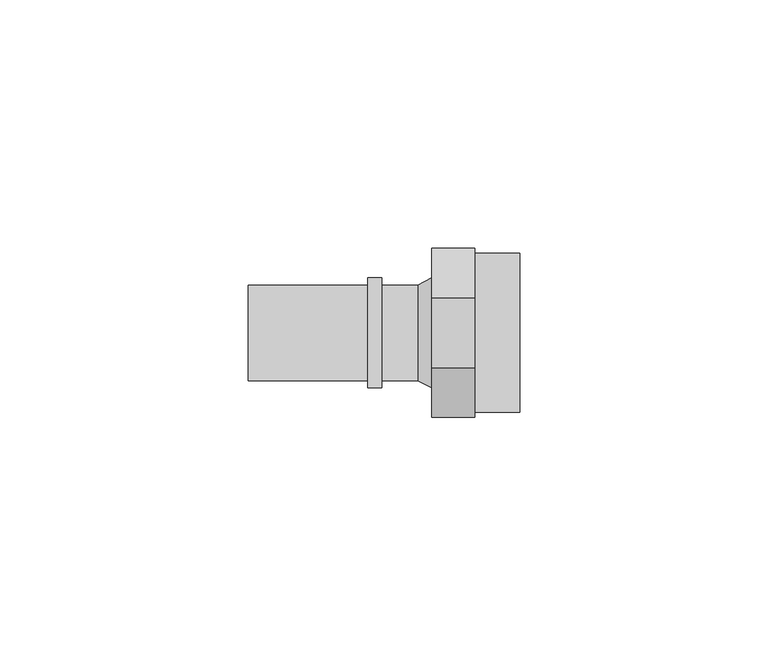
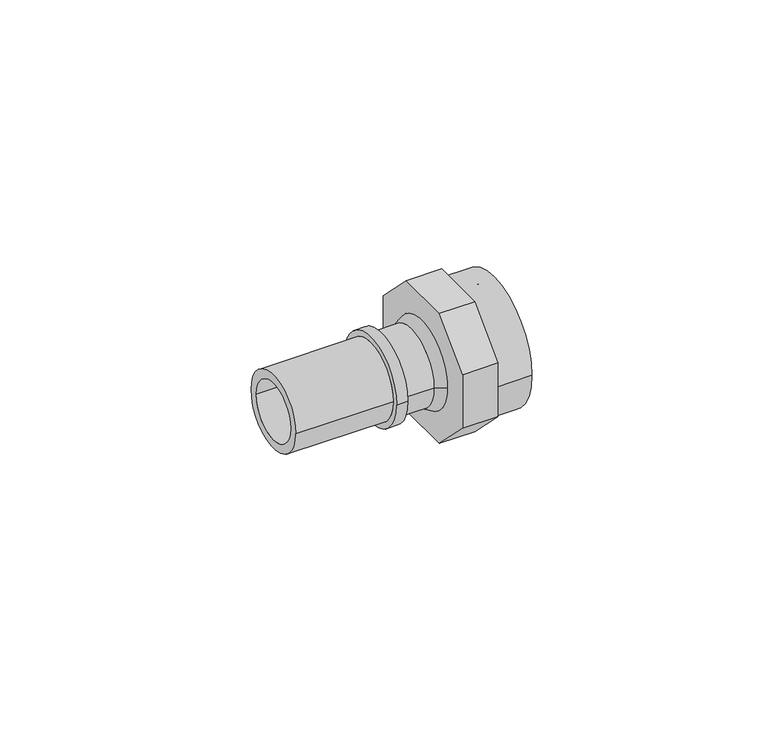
"""IFC4 building model written with IfcOpenShell, lengths in millimetres: pipe fitting geometry, FASTLOC_Adapter_LX, with internal thread : FSL A internal PL."""

import ifcopenshell
import ifcopenshell.guid

model = None  # the IFC model being written
_history = None  # IfcOwnerHistory: only IFC2X3 demands one
_inside = {}  # id of a spatial element -> (the spatial element, [elements in it])
_under = {}  # id of a project, library or spatial element -> (it, [spatial elements below it])
_declared = {}  # id of a project -> (the project, [libraries it declares])
_typed = {}  # id of a type object -> (the type object, [elements of that type])
_made_of = {}  # id of a material, layer set ... -> (it, [elements and type objects made of it])


def new_model(schema):
    """Start an empty IFC model of exactly this schema.

    Asked for "IFC4X3", IfcOpenShell would pick the latest addendum, in which some entities
    have other attributes; the version numbers below select the first issue.
    IFC2X3 requires an IfcOwnerHistory on every rooted entity: one is made here for all.
    """
    global model, _history
    if schema == "IFC4X3":
        model = ifcopenshell.file(schema_version=(4, 3, 0, 0))
    else:
        model = ifcopenshell.file(schema=schema)
    _inside.clear()
    _under.clear()
    _declared.clear()
    _typed.clear()
    _made_of.clear()
    _history = None
    if model.schema == "IFC2X3":
        org = make("IfcOrganization", Name="unknown")
        user = make(
            "IfcPersonAndOrganization",
            ThePerson=make("IfcPerson", FamilyName="unknown"),
            TheOrganization=org,
        )
        app = make(
            "IfcApplication",
            ApplicationDeveloper=org,
            Version="unknown",
            ApplicationFullName="unknown",
            ApplicationIdentifier="unknown",
        )
        _history = make(
            "IfcOwnerHistory",
            OwningUser=user,
            OwningApplication=app,
            ChangeAction="ADDED",
            CreationDate=0,
        )
    return model


def make(cls, **values):
    """One entity of the class cls with the attributes given. An attribute that is None is left unset."""
    return model.create_entity(
        cls, **{name: value for name, value in values.items() if value is not None}
    )


def rooted(cls, **values):
    """An entity with a GlobalId (a new one), such as an element, a storey or a relation."""
    return make(cls, GlobalId=ifcopenshell.guid.new(), OwnerHistory=_history, **values)


def si_unit(unit_type, name, prefix=None):
    """IfcSIUnit, for example si_unit("LENGTHUNIT", "METRE", prefix="MILLI")."""
    return make("IfcSIUnit", UnitType=unit_type, Prefix=prefix, Name=name)


def assignment(units):
    """IfcUnitAssignment: the units of a project."""
    return None if units is None else make("IfcUnitAssignment", Units=units)


def point(xyz):
    """IfcCartesianPoint."""
    return None if xyz is None else make("IfcCartesianPoint", Coordinates=xyz)


def direction(xyz):
    """IfcDirection."""
    return None if xyz is None else make("IfcDirection", DirectionRatios=xyz)


def frame(location, z_axis=None, x_axis=None):
    """IfcAxis2Placement3D, a coordinate frame: its origin and axes. An axis left out is left unset."""
    return make(
        "IfcAxis2Placement3D",
        Location=point(location),
        Axis=direction(z_axis),
        RefDirection=direction(x_axis),
    )


def frame_2d(location, x_axis=None):
    """IfcAxis2Placement2D, a coordinate frame in the plane: its origin and x axis."""
    return make(
        "IfcAxis2Placement2D", Location=point(location), RefDirection=direction(x_axis)
    )


def origin():
    """The frame at (0, 0, 0) with its axes left unset."""
    return frame((0.0, 0.0, 0.0))


def origin_2d():
    """The frame at (0, 0) in the plane with its x axis left unset."""
    return frame_2d((0.0, 0.0))


def place(relative_to, where):
    """IfcLocalPlacement: puts the frame where relative to a parent placement (None: the world)."""
    return make(
        "IfcLocalPlacement", PlacementRelTo=relative_to, RelativePlacement=where
    )


def context(
    kind, dimensions, precision=None, world=None, true_north=None, identifier=None
):
    """IfcGeometricRepresentationContext, for example the 3D "Model" context."""
    return make(
        "IfcGeometricRepresentationContext",
        ContextIdentifier=identifier,
        ContextType=kind,
        CoordinateSpaceDimension=dimensions,
        Precision=precision,
        WorldCoordinateSystem=world,
        TrueNorth=true_north,
    )


def project(units=None, contexts=None):
    """IfcProject with its units and contexts."""
    return rooted(
        "IfcProject",
        Name="project",
        RepresentationContexts=contexts,
        UnitsInContext=assignment(units),
    )


def spatial(cls, under=None, at=None, **own):
    """A site, building, storey or space (cls), placed at a placement, below another one or the project."""
    s = rooted(cls, ObjectPlacement=at, **own)
    if under is not None:
        _under.setdefault(under.id(), (under, []))[1].append(s)
    return s


def polyline(points):
    """IfcPolyline through the points."""
    return make("IfcPolyline", Points=[point(p) for p in points])


def circle_curve(where, radius):
    """IfcCircle in the frame where."""
    return make("IfcCircle", Position=where, Radius=radius)


def trimmed(basis, trim1, trim2, sense, master):
    """IfcTrimmedCurve: the piece of a basis curve between two trims."""
    return make(
        "IfcTrimmedCurve",
        BasisCurve=basis,
        Trim1=trim1,
        Trim2=trim2,
        SenseAgreement=sense,
        MasterRepresentation=master,
    )


def segment(curve, same_sense, transition):
    """IfcCompositeCurveSegment."""
    return make(
        "IfcCompositeCurveSegment",
        Transition=transition,
        SameSense=same_sense,
        ParentCurve=curve,
    )


def composite_curve(segments, self_intersect=None):
    """IfcCompositeCurve: segments joined end to end."""
    return make("IfcCompositeCurve", Segments=segments, SelfIntersect=self_intersect)


def outline(outer, holes=None, kind="AREA"):
    """IfcArbitraryClosedProfileDef: a profile drawn as a closed curve; with holes, ...WithVoids."""
    if holes is None:
        return make("IfcArbitraryClosedProfileDef", ProfileType=kind, OuterCurve=outer)
    return make(
        "IfcArbitraryProfileDefWithVoids",
        ProfileType=kind,
        OuterCurve=outer,
        InnerCurves=holes,
    )


def extrude(swept, where, along, depth):
    """IfcExtrudedAreaSolid: the profile swept, set in the frame where, extruded along a direction by depth."""
    return make(
        "IfcExtrudedAreaSolid",
        SweptArea=swept,
        Position=where,
        ExtrudedDirection=direction(along),
        Depth=depth,
    )


def shape(context_of_items, identifier, shape_type, items):
    """IfcShapeRepresentation: the items that make up one representation, for example the "Body"."""
    return make(
        "IfcShapeRepresentation",
        ContextOfItems=context_of_items,
        RepresentationIdentifier=identifier,
        RepresentationType=shape_type,
        Items=items,
    )


def source(mapping_origin, context_of_items, identifier, shape_type, items):
    """IfcRepresentationMap: a shape defined once, which mapped items show again and again."""
    return make(
        "IfcRepresentationMap",
        MappingOrigin=mapping_origin,
        MappedRepresentation=shape(context_of_items, identifier, shape_type, items),
    )


def transform(
    local_origin,
    x_axis=None,
    y_axis=None,
    z_axis=None,
    scale=None,
    scale2=None,
    scale3=None,
    uniform=True,
):
    """IfcCartesianTransformationOperator3D, or its non-uniform kind. x_axis, y_axis, z_axis: its Axis1, 2, 3."""
    if uniform:
        return make(
            "IfcCartesianTransformationOperator3D",
            Axis1=direction(x_axis),
            Axis2=direction(y_axis),
            LocalOrigin=point(local_origin),
            Scale=scale,
            Axis3=direction(z_axis),
        )
    return make(
        "IfcCartesianTransformationOperator3DnonUniform",
        Axis1=direction(x_axis),
        Axis2=direction(y_axis),
        LocalOrigin=point(local_origin),
        Scale=scale,
        Axis3=direction(z_axis),
        Scale2=scale2,
        Scale3=scale3,
    )


def mapped(mapping_source, mapping_target):
    """IfcMappedItem: shows the shape of a source again, moved by a transform."""
    return make(
        "IfcMappedItem", MappingSource=mapping_source, MappingTarget=mapping_target
    )


def made_of(thing, what):
    """Note that an element or type object is made of a material, layer set ...; save() writes the relation."""
    if what is not None:
        _made_of.setdefault(what.id(), (what, []))[1].append(thing)
    return thing


def element(
    cls,
    number,
    at=None,
    inside=None,
    cuts=None,
    type_object=None,
    material=None,
    context=None,
    identifier="Body",
    shape_type=None,
    held_by="IfcProductDefinitionShape",
    body=None,
    shapes=None,
    **own,
):
    """One element of the class cls, such as IfcWall. Its Tag is "e" and its number.

    at: its placement. inside: the storey or other place that contains it. cuts: it is an
    opening in that element (IfcRelVoidsElement). A single representation is given by context,
    identifier, shape_type and body (its items); several are given by shapes. held_by: the class
    of the entity that holds the representations. save() writes the other relations.
    """
    e = rooted(cls, Tag="e%d" % number, ObjectPlacement=at, **own)
    if body is not None:
        shapes = [shape(context, identifier, shape_type, body)]
    if shapes is not None:
        e.Representation = make(held_by, Representations=shapes)
    if inside is not None:
        _inside.setdefault(inside.id(), (inside, []))[1].append(e)
    if cuts is not None:
        rooted(
            "IfcRelVoidsElement", RelatingBuildingElement=cuts, RelatedOpeningElement=e
        )
    if type_object is not None:
        _typed.setdefault(type_object.id(), (type_object, []))[1].append(e)
    return made_of(e, material)


def aggregate(whole, parts):
    """IfcRelAggregates: a whole, such as a stair, and the parts it consists of."""
    return rooted("IfcRelAggregates", RelatingObject=whole, RelatedObjects=parts)


def save(model, path):
    """Write the relations noted so far, then the file.

    IfcRelAggregates (storeys below a building ...), IfcRelContainedInSpatialStructure (elements
    in a storey), IfcRelDefinesByType, IfcRelAssociatesMaterial and IfcRelDeclares: one each for
    every whole, place, type object, material and project.
    """
    for whole, parts in _under.values():
        aggregate(whole, parts)
    for where, things in _inside.values():
        rooted(
            "IfcRelContainedInSpatialStructure",
            RelatedElements=things,
            RelatingStructure=where,
        )
    for kind, things in _typed.values():
        rooted("IfcRelDefinesByType", RelatedObjects=things, RelatingType=kind)
    for what, things in _made_of.values():
        rooted("IfcRelAssociatesMaterial", RelatedObjects=things, RelatingMaterial=what)
    for by, libraries in _declared.values():
        rooted("IfcRelDeclares", RelatingContext=by, RelatedDefinitions=libraries)
    model.write(path)


def plane_surface(at):
    """IfcPlane: the flat surface through the origin of the frame at, square to its z axis."""
    return make("IfcPlane", Position=at)


def cylinder_surface(at, radius):
    """IfcCylindricalSurface: all points at the distance radius from the z axis of the frame at."""
    return make("IfcCylindricalSurface", Position=at, Radius=radius)


def revolved_surface(curve, axis_point, axis_direction):
    """IfcSurfaceOfRevolution: the curve turned about the line through axis_point along axis_direction."""
    return make(
        "IfcSurfaceOfRevolution",
        SweptCurve=make("IfcArbitraryOpenProfileDef", ProfileType="CURVE", Curve=curve),
        AxisPosition=make("IfcAxis1Placement", Location=point(axis_point), Axis=direction(axis_direction)),
    )


def advanced_brep(points, edges, surfaces, faces):
    """IfcAdvancedBrep: a solid bounded by faces that lie on surfaces and meet in shared edges.

    An edge is (start, end): straight between two places in points (the first is 0);
    or (start, end, curve); or (start, end, curve, False) where it runs against its curve.
    A face is (place in surfaces, loops), or (place, loops, False) where it looks against
    its surface's normal. A loop lists edges by number (the first is 1), with a minus sign
    where the edge is run from its end to its start. The first loop is the outer one.
    """
    corners = [point(p) for p in points]
    vertices = [make("IfcVertexPoint", VertexGeometry=c) for c in corners]
    made = []
    for start, end, *more in edges:
        made.append(
            make(
                "IfcEdgeCurve",
                EdgeStart=vertices[start],
                EdgeEnd=vertices[end],
                EdgeGeometry=more[0] if more else make("IfcPolyline", Points=[corners[start], corners[end]]),
                SameSense=more[1] if len(more) > 1 else True,
            )
        )
    hull = []
    for where, loops, *sense in faces:
        bounds = []
        for j, loop in enumerate(loops):
            ring = [make("IfcOrientedEdge", EdgeElement=made[abs(k) - 1], Orientation=k > 0) for k in loop]
            bounds.append(
                make(
                    "IfcFaceOuterBound" if j == 0 else "IfcFaceBound",
                    Bound=make("IfcEdgeLoop", EdgeList=ring),
                    Orientation=True,
                )
            )
        hull.append(make("IfcAdvancedFace", Bounds=bounds, FaceSurface=surfaces[where], SameSense=sense[0] if sense else True))
    return make("IfcAdvancedBrep", Outer=make("IfcClosedShell", CfsFaces=hull))


def pipe_fitting_dc7a118d(model_context):
    return source(origin(), model_context, "Body", "SolidModel", [
        extrude(outline(composite_curve([segment(trimmed(circle_curve(origin_2d(), 16.0), [point((-16.0, 0.0))], [point((16.0, 0.0))], False, "CARTESIAN"), True, "CONTINUOUS"), segment(trimmed(circle_curve(origin_2d(), 16.0), [point((16.0, 0.0))], [point((-16.0, 0.0))], False, "CARTESIAN"), True, "CONTINUOUS")], self_intersect=False), holes=[composite_curve([segment(trimmed(circle_curve(origin_2d(), 12.05), [point((-12.05, 0.0))], [point((12.05, 0.0))], True, "CARTESIAN"), True, "CONTINUOUS"), segment(trimmed(circle_curve(origin_2d(), 12.05), [point((12.05, 0.0))], [point((-12.05, 0.0))], True, "CARTESIAN"), True, "CONTINUOUS")], self_intersect=False)]), frame((8.7, 0.0, 0.0), z_axis=(1.0, 0.0, 0.0), x_axis=(0.0, 1.0, 0.0)), (0.0, 0.0, 1.0), 9.0),
        extrude(outline(polyline([(-7.0416306, -17.0), (-17.0, -7.0416306), (-17.0, 7.0416306), (-7.0416306, 17.0), (7.0416306, 17.0), (17.0, 7.0416306), (17.0, -7.0416306), (7.0416306, -17.0), (-7.0416306, -17.0)]), holes=[composite_curve([segment(trimmed(circle_curve(origin_2d(), 7.35), [point((-7.35, 0.0))], [point((7.35, 0.0))], True, "CARTESIAN"), True, "CONTINUOUS"), segment(trimmed(circle_curve(origin_2d(), 7.35), [point((7.35, 0.0))], [point((-7.35, 0.0))], True, "CARTESIAN"), True, "CONTINUOUS")], self_intersect=False)]), frame((0.0, 0.0, 0.0), z_axis=(1.0, 0.0, 0.0), x_axis=(0.0, 1.0, 0.0)), (0.0, 0.0, 1.0), 8.7),
        advanced_brep(
        [(-12.9, 9.6, 0.0), (-12.9, -9.6, 0.0), (-36.9, -9.6, 0.0), (-36.9, 9.6, 0.0), (-10.1, 11.1, 0.0), (-10.1, -11.1, 0.0), (-12.9, -11.1, 0.0), (-12.9, 11.1, 0.0), (-2.8, 9.6, 0.0), (-2.8, -9.6, 0.0), (-10.1, -9.6, 0.0), (-10.1, 9.6, 0.0), (0.0, 11.1, 0.0), (0.0, -11.1, 0.0), (-36.9, 7.35, 0.0), (-36.9, -7.35, 0.0), (0.0, -7.35, 0.0), (0.0, 7.35, 0.0)],
        [
            (0, 1, circle_curve(frame((-12.9, 0.0, 0.0), z_axis=(-1.0, 0.0, 0.0), x_axis=(0.0, -1.0, 0.0)), 9.6)),
            (1, 2),
            (2, 3, circle_curve(frame((-36.9, 0.0, 0.0), z_axis=(1.0, 0.0, 0.0), x_axis=(0.0, -1.0, 0.0)), 9.6)),
            (3, 0),
            (4, 5, circle_curve(frame((-10.1, 0.0, 0.0), z_axis=(-1.0, 0.0, 0.0), x_axis=(0.0, -1.0, 0.0)), 11.1)),
            (5, 6),
            (6, 7, circle_curve(frame((-12.9, 0.0, 0.0), z_axis=(1.0, 0.0, 0.0), x_axis=(0.0, -1.0, 0.0)), 11.1)),
            (7, 4),
            (8, 9, circle_curve(frame((-2.8, 0.0, 0.0), z_axis=(-1.0, 0.0, 0.0), x_axis=(0.0, -1.0, 0.0)), 9.6)),
            (9, 10),
            (10, 11, circle_curve(frame((-10.1, 0.0, 0.0), z_axis=(1.0, 0.0, 0.0), x_axis=(0.0, -1.0, 0.0)), 9.6)),
            (11, 8),
            (12, 13, circle_curve(frame((0.0, 0.0, 0.0), z_axis=(-1.0, 0.0, 0.0), x_axis=(0.0, -1.0, 0.0)), 11.1)),
            (13, 9),
            (8, 12),
            (14, 15, circle_curve(frame((-36.9, 0.0, 0.0), z_axis=(-1.0, 0.0, 0.0), x_axis=(0.0, -1.0, 0.0)), 7.35)),
            (15, 16),
            (16, 17, circle_curve(frame((0.0, 0.0, 0.0), z_axis=(1.0, 0.0, 0.0), x_axis=(0.0, -1.0, 0.0)), 7.35)),
            (17, 14),
            (2, 3, circle_curve(frame((-36.9, 0.0, 0.0), z_axis=(-1.0, 0.0, 0.0), x_axis=(0.0, 1.0, 0.0)), 9.6)),
            (14, 15, circle_curve(frame((-36.9, 0.0, 0.0), z_axis=(1.0, 0.0, 0.0), x_axis=(0.0, 1.0, 0.0)), 7.35)),
            (1, 0, circle_curve(frame((-12.9, 0.0, 0.0), z_axis=(-1.0, 0.0, 0.0), x_axis=(0.0, 1.0, 0.0)), 9.6)),
            (6, 7, circle_curve(frame((-12.9, 0.0, 0.0), z_axis=(-1.0, 0.0, 0.0), x_axis=(0.0, 1.0, 0.0)), 11.1)),
            (5, 4, circle_curve(frame((-10.1, 0.0, 0.0), z_axis=(-1.0, 0.0, 0.0), x_axis=(0.0, 1.0, 0.0)), 11.1)),
            (10, 11, circle_curve(frame((-10.1, 0.0, 0.0), z_axis=(-1.0, 0.0, 0.0), x_axis=(0.0, 1.0, 0.0)), 9.6)),
            (9, 8, circle_curve(frame((-2.8, 0.0, 0.0), z_axis=(-1.0, 0.0, 0.0), x_axis=(0.0, 1.0, 0.0)), 9.6)),
            (13, 12, circle_curve(frame((0.0, 0.0, 0.0), z_axis=(-1.0, 0.0, 0.0), x_axis=(0.0, 1.0, 0.0)), 11.1)),
            (16, 17, circle_curve(frame((0.0, 0.0, 0.0), z_axis=(-1.0, 0.0, 0.0), x_axis=(0.0, 1.0, 0.0)), 7.35)),
        ],
        [
            cylinder_surface(frame((0.0, 0.0, 0.0), z_axis=(1.0, 0.0, 0.0), x_axis=(0.0, -1.0, 0.0)), 9.6),
            cylinder_surface(frame((0.0, 0.0, 0.0), z_axis=(1.0, 0.0, 0.0), x_axis=(0.0, -1.0, 0.0)), 11.1),
            revolved_surface(polyline([(-2.8, -9.6, 0.0), (0.0, -11.1, 0.0)]), (0.0, 0.0, 0.0), (1.0, 0.0, 0.0)),
            revolved_surface(polyline([(0.0, -7.35, 0.0), (-36.9, -7.35, 0.0)]), (0.0, 0.0, 0.0), (1.0, 0.0, 0.0)),
            plane_surface(frame((-36.9, 0.0, 0.0), z_axis=(-1.0, 0.0, 0.0), x_axis=(0.0, 1.0, 0.0))),
            cylinder_surface(frame((0.0, 0.0, 0.0), z_axis=(1.0, 0.0, 0.0), x_axis=(0.0, 1.0, 0.0)), 9.6),
            plane_surface(frame((-12.9, 0.0, 0.0), z_axis=(-1.0, 0.0, 0.0), x_axis=(0.0, 1.0, 0.0))),
            cylinder_surface(frame((0.0, 0.0, 0.0), z_axis=(1.0, 0.0, 0.0), x_axis=(0.0, 1.0, 0.0)), 11.1),
            plane_surface(frame((-10.1, 0.0, 0.0), z_axis=(1.0, 0.0, 0.0), x_axis=(0.0, 1.0, 0.0))),
            revolved_surface(polyline([(-2.8, 9.6, 0.0), (0.0, 11.1, 0.0)]), (0.0, 0.0, 0.0), (1.0, 0.0, 0.0)),
            plane_surface(frame((0.0, 0.0, 0.0), z_axis=(1.0, 0.0, 0.0), x_axis=(0.0, 1.0, 0.0))),
            revolved_surface(polyline([(0.0, 7.35, 0.0), (-36.9, 7.35, 0.0)]), (0.0, 0.0, 0.0), (1.0, 0.0, 0.0)),
        ],
        [
            (0, [[1, 2, 3, 4]]),
            (1, [[5, 6, 7, 8]]),
            (0, [[9, 10, 11, 12]]),
            (2, [[13, 14, -9, 15]]),
            (3, [[16, 17, 18, 19]]),
            (4, [[20, -3], [21, -16]]),
            (5, [[22, -4, -20, -2]]),
            (6, [[23, -7], [-22, -1]]),
            (7, [[24, -8, -23, -6]]),
            (8, [[-24, -5], [25, -11]]),
            (5, [[26, -12, -25, -10]]),
            (9, [[27, -15, -26, -14]]),
            (10, [[-27, -13], [28, -18]]),
            (11, [[-21, -19, -28, -17]]),
        ],
    ),
    ])


if __name__ == "__main__":
    model = new_model("IFC4")
    model_context = context("Model", 3, world=origin())
    ifc_project = project(units=[si_unit("LENGTHUNIT", "METRE", prefix="MILLI")], contexts=[model_context])
    site = spatial("IfcSite", under=ifc_project)
    building = spatial("IfcBuilding", under=site)
    placement = place(None, origin())
    pipe_fitting_shape = pipe_fitting_dc7a118d(model_context)
    element("IfcPipeFitting", 1, ObjectType="FASTLOC_Adapter_LX, with internal thread : FSL A internal PL", at=placement, inside=building, context=model_context, shape_type="MappedRepresentation", body=[
        mapped(pipe_fitting_shape, transform((0.0, 0.0, 0.0), x_axis=(1.0, 0.0, 0.0), y_axis=(0.0, 1.0, 0.0), z_axis=(0.0, 0.0, 1.0))),
    ])
    save(model, "model.ifc")
